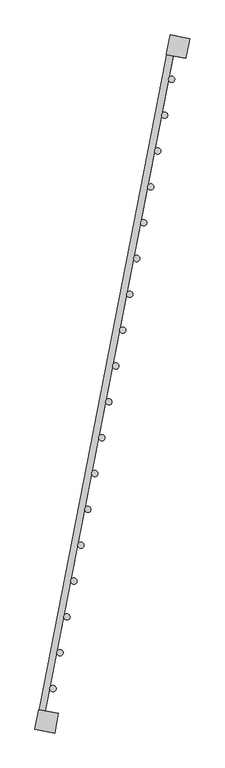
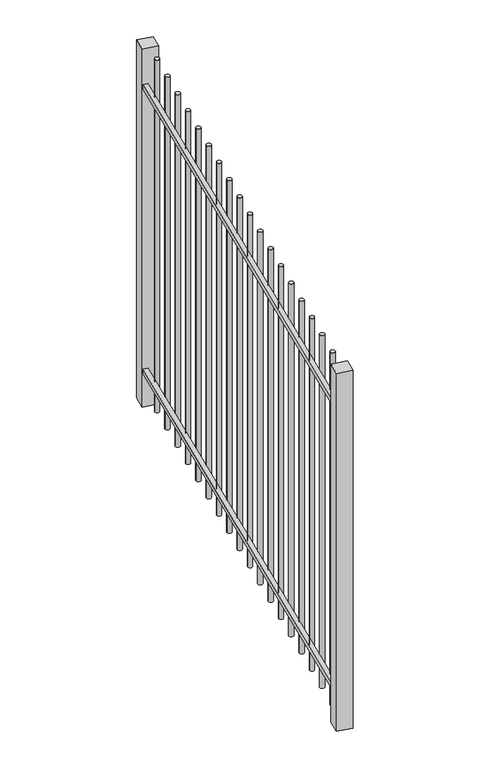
"""IFC4 building model written with IfcOpenShell, lengths in millimetres: railing geometry, GRADIL V 200 01."""

from ifc_helpers import new_model, si_unit, point, frame, frame_2d, origin, origin_with_axes, place, context, project, spatial, polyline, circle_curve, trimmed, segment, composite_curve, outline, extrude, source, transform, mapped, element, save


def railing_6e855a38(model_context):
    return source(origin(), model_context, "Body", "SweptSolid", [
        extrude(outline(polyline([(46061.0197058, 21176.6040778), (46085.5588736, 21171.8260823), (45554.245773, 18443.0706171), (45529.7066051, 18447.8486126), (46061.0197058, 21176.6040778)])), frame((0.0, 0.0, 1787.5), z_axis=(0.0, 0.0, 1.0), x_axis=(1.0, 0.0, 0.0)), (0.0, 0.0, 1.0), 25.0),
        extrude(outline(polyline([(46061.0197058, 21176.6040778), (46085.5588736, 21171.8260823), (45554.245773, 18443.0706171), (45529.7066051, 18447.8486126), (46061.0197058, 21176.6040778)])), frame((0.0, 0.0, 187.5), z_axis=(0.0, 0.0, 1.0), x_axis=(1.0, 0.0, 0.0)), (0.0, 0.0, 1.0), 25.0),
        extrude(outline(composite_curve([segment(trimmed(circle_curve(frame_2d((45594.4792043, 18584.300328)), 12.5), [point((45606.7487882, 18581.9113303))], [point((45582.2096204, 18586.6893258))], False, "CARTESIAN"), True, "CONTINUOUS"), segment(trimmed(circle_curve(frame_2d((45594.4792043, 18584.300328)), 12.5), [point((45582.2096204, 18586.6893258))], [point((45606.7487882, 18581.9113303))], False, "CARTESIAN"), True, "CONTINUOUS")], self_intersect=False)), frame((0.0, 0.0, 30.0), z_axis=(0.0, 0.0, 1.0), x_axis=(1.0, 0.0, 0.0)), (0.0, 0.0, 1.0), 1982.5),
        extrude(outline(composite_curve([segment(trimmed(circle_curve(frame_2d((45622.4430517, 18727.9190367)), 12.5), [point((45634.7126356, 18725.530039))], [point((45610.1734678, 18730.3080345))], False, "CARTESIAN"), True, "CONTINUOUS"), segment(trimmed(circle_curve(frame_2d((45622.4430517, 18727.9190367)), 12.5), [point((45610.1734678, 18730.3080345))], [point((45634.7126356, 18725.530039))], False, "CARTESIAN"), True, "CONTINUOUS")], self_intersect=False)), frame((0.0, 0.0, 30.0), z_axis=(0.0, 0.0, 1.0), x_axis=(1.0, 0.0, 0.0)), (0.0, 0.0, 1.0), 1982.5),
        extrude(outline(composite_curve([segment(trimmed(circle_curve(frame_2d((45650.4068991, 18871.5377454)), 12.5), [point((45662.6764831, 18869.1487477))], [point((45638.1373152, 18873.9267432))], False, "CARTESIAN"), True, "CONTINUOUS"), segment(trimmed(circle_curve(frame_2d((45650.4068991, 18871.5377454)), 12.5), [point((45638.1373152, 18873.9267432))], [point((45662.6764831, 18869.1487477))], False, "CARTESIAN"), True, "CONTINUOUS")], self_intersect=False)), frame((0.0, 0.0, 30.0), z_axis=(0.0, 0.0, 1.0), x_axis=(1.0, 0.0, 0.0)), (0.0, 0.0, 1.0), 1982.5),
        extrude(outline(composite_curve([segment(trimmed(circle_curve(frame_2d((45678.3707465, 19015.1564541)), 12.5), [point((45690.6403305, 19012.7674564))], [point((45666.1011626, 19017.5454519))], False, "CARTESIAN"), True, "CONTINUOUS"), segment(trimmed(circle_curve(frame_2d((45678.3707465, 19015.1564541)), 12.5), [point((45666.1011626, 19017.5454519))], [point((45690.6403305, 19012.7674564))], False, "CARTESIAN"), True, "CONTINUOUS")], self_intersect=False)), frame((0.0, 0.0, 30.0), z_axis=(0.0, 0.0, 1.0), x_axis=(1.0, 0.0, 0.0)), (0.0, 0.0, 1.0), 1982.5),
        extrude(outline(composite_curve([segment(trimmed(circle_curve(frame_2d((45706.3345939, 19158.7751628)), 12.5), [point((45718.6041779, 19156.3861651))], [point((45694.06501, 19161.1641606))], False, "CARTESIAN"), True, "CONTINUOUS"), segment(trimmed(circle_curve(frame_2d((45706.3345939, 19158.7751628)), 12.5), [point((45694.06501, 19161.1641606))], [point((45718.6041779, 19156.3861651))], False, "CARTESIAN"), True, "CONTINUOUS")], self_intersect=False)), frame((0.0, 0.0, 30.0), z_axis=(0.0, 0.0, 1.0), x_axis=(1.0, 0.0, 0.0)), (0.0, 0.0, 1.0), 1982.5),
        extrude(outline(composite_curve([segment(trimmed(circle_curve(frame_2d((45734.2984413, 19302.3938715)), 12.5), [point((45746.5680253, 19300.0048738))], [point((45722.0288574, 19304.7828693))], False, "CARTESIAN"), True, "CONTINUOUS"), segment(trimmed(circle_curve(frame_2d((45734.2984413, 19302.3938715)), 12.5), [point((45722.0288574, 19304.7828693))], [point((45746.5680253, 19300.0048738))], False, "CARTESIAN"), True, "CONTINUOUS")], self_intersect=False)), frame((0.0, 0.0, 30.0), z_axis=(0.0, 0.0, 1.0), x_axis=(1.0, 0.0, 0.0)), (0.0, 0.0, 1.0), 1982.5),
        extrude(outline(composite_curve([segment(trimmed(circle_curve(frame_2d((45762.2622887, 19446.0125802)), 12.5), [point((45774.5318727, 19443.6235825))], [point((45749.9927048, 19448.401578))], False, "CARTESIAN"), True, "CONTINUOUS"), segment(trimmed(circle_curve(frame_2d((45762.2622887, 19446.0125802)), 12.5), [point((45749.9927048, 19448.401578))], [point((45774.5318727, 19443.6235825))], False, "CARTESIAN"), True, "CONTINUOUS")], self_intersect=False)), frame((0.0, 0.0, 30.0), z_axis=(0.0, 0.0, 1.0), x_axis=(1.0, 0.0, 0.0)), (0.0, 0.0, 1.0), 1982.5),
        extrude(outline(composite_curve([segment(trimmed(circle_curve(frame_2d((45790.2261361, 19589.6312889)), 12.5), [point((45802.4957201, 19587.2422912))], [point((45777.9565522, 19592.0202867))], False, "CARTESIAN"), True, "CONTINUOUS"), segment(trimmed(circle_curve(frame_2d((45790.2261361, 19589.6312889)), 12.5), [point((45777.9565522, 19592.0202867))], [point((45802.4957201, 19587.2422912))], False, "CARTESIAN"), True, "CONTINUOUS")], self_intersect=False)), frame((0.0, 0.0, 30.0), z_axis=(0.0, 0.0, 1.0), x_axis=(1.0, 0.0, 0.0)), (0.0, 0.0, 1.0), 1982.5),
        extrude(outline(composite_curve([segment(trimmed(circle_curve(frame_2d((45818.1899835, 19733.2499976)), 12.5), [point((45830.4595675, 19730.8609999))], [point((45805.9203996, 19735.6389954))], False, "CARTESIAN"), True, "CONTINUOUS"), segment(trimmed(circle_curve(frame_2d((45818.1899835, 19733.2499976)), 12.5), [point((45805.9203996, 19735.6389954))], [point((45830.4595675, 19730.8609999))], False, "CARTESIAN"), True, "CONTINUOUS")], self_intersect=False)), frame((0.0, 0.0, 30.0), z_axis=(0.0, 0.0, 1.0), x_axis=(1.0, 0.0, 0.0)), (0.0, 0.0, 1.0), 1982.5),
        extrude(outline(composite_curve([segment(trimmed(circle_curve(frame_2d((45846.1538309, 19876.8687063)), 12.5), [point((45858.4234149, 19874.4797086))], [point((45833.884247, 19879.2577041))], False, "CARTESIAN"), True, "CONTINUOUS"), segment(trimmed(circle_curve(frame_2d((45846.1538309, 19876.8687063)), 12.5), [point((45833.884247, 19879.2577041))], [point((45858.4234149, 19874.4797086))], False, "CARTESIAN"), True, "CONTINUOUS")], self_intersect=False)), frame((0.0, 0.0, 30.0), z_axis=(0.0, 0.0, 1.0), x_axis=(1.0, 0.0, 0.0)), (0.0, 0.0, 1.0), 1982.5),
        extrude(outline(composite_curve([segment(trimmed(circle_curve(frame_2d((45874.1176783, 20020.487415)), 12.5), [point((45886.3872623, 20018.0984173))], [point((45861.8480944, 20022.8764128))], False, "CARTESIAN"), True, "CONTINUOUS"), segment(trimmed(circle_curve(frame_2d((45874.1176783, 20020.487415)), 12.5), [point((45861.8480944, 20022.8764128))], [point((45886.3872623, 20018.0984173))], False, "CARTESIAN"), True, "CONTINUOUS")], self_intersect=False)), frame((0.0, 0.0, 30.0), z_axis=(0.0, 0.0, 1.0), x_axis=(1.0, 0.0, 0.0)), (0.0, 0.0, 1.0), 1982.5),
        extrude(outline(composite_curve([segment(trimmed(circle_curve(frame_2d((45902.0815257, 20164.1061237)), 12.5), [point((45914.3511097, 20161.717126))], [point((45889.8119418, 20166.4951215))], False, "CARTESIAN"), True, "CONTINUOUS"), segment(trimmed(circle_curve(frame_2d((45902.0815257, 20164.1061237)), 12.5), [point((45889.8119418, 20166.4951215))], [point((45914.3511097, 20161.717126))], False, "CARTESIAN"), True, "CONTINUOUS")], self_intersect=False)), frame((0.0, 0.0, 30.0), z_axis=(0.0, 0.0, 1.0), x_axis=(1.0, 0.0, 0.0)), (0.0, 0.0, 1.0), 1982.5),
        extrude(outline(composite_curve([segment(trimmed(circle_curve(frame_2d((45930.0453732, 20307.7248324)), 12.5), [point((45942.3149571, 20305.3358346))], [point((45917.7757892, 20310.1138302))], False, "CARTESIAN"), True, "CONTINUOUS"), segment(trimmed(circle_curve(frame_2d((45930.0453732, 20307.7248324)), 12.5), [point((45917.7757892, 20310.1138302))], [point((45942.3149571, 20305.3358346))], False, "CARTESIAN"), True, "CONTINUOUS")], self_intersect=False)), frame((0.0, 0.0, 30.0), z_axis=(0.0, 0.0, 1.0), x_axis=(1.0, 0.0, 0.0)), (0.0, 0.0, 1.0), 1982.5),
        extrude(outline(composite_curve([segment(trimmed(circle_curve(frame_2d((45958.0092206, 20451.3435411)), 12.5), [point((45970.2788045, 20448.9545433))], [point((45945.7396366, 20453.7325389))], False, "CARTESIAN"), True, "CONTINUOUS"), segment(trimmed(circle_curve(frame_2d((45958.0092206, 20451.3435411)), 12.5), [point((45945.7396366, 20453.7325389))], [point((45970.2788045, 20448.9545433))], False, "CARTESIAN"), True, "CONTINUOUS")], self_intersect=False)), frame((0.0, 0.0, 30.0), z_axis=(0.0, 0.0, 1.0), x_axis=(1.0, 0.0, 0.0)), (0.0, 0.0, 1.0), 1982.5),
        extrude(outline(composite_curve([segment(trimmed(circle_curve(frame_2d((45985.973068, 20594.9622498)), 12.5), [point((45998.2426519, 20592.573252))], [point((45973.703484, 20597.3512476))], False, "CARTESIAN"), True, "CONTINUOUS"), segment(trimmed(circle_curve(frame_2d((45985.973068, 20594.9622498)), 12.5), [point((45973.703484, 20597.3512476))], [point((45998.2426519, 20592.573252))], False, "CARTESIAN"), True, "CONTINUOUS")], self_intersect=False)), frame((0.0, 0.0, 30.0), z_axis=(0.0, 0.0, 1.0), x_axis=(1.0, 0.0, 0.0)), (0.0, 0.0, 1.0), 1982.5),
        extrude(outline(composite_curve([segment(trimmed(circle_curve(frame_2d((46013.9369154, 20738.5809585)), 12.5), [point((46026.2064993, 20736.1919607))], [point((46001.6673314, 20740.9699562))], False, "CARTESIAN"), True, "CONTINUOUS"), segment(trimmed(circle_curve(frame_2d((46013.9369154, 20738.5809585)), 12.5), [point((46001.6673314, 20740.9699562))], [point((46026.2064993, 20736.1919607))], False, "CARTESIAN"), True, "CONTINUOUS")], self_intersect=False)), frame((0.0, 0.0, 30.0), z_axis=(0.0, 0.0, 1.0), x_axis=(1.0, 0.0, 0.0)), (0.0, 0.0, 1.0), 1982.5),
        extrude(outline(composite_curve([segment(trimmed(circle_curve(frame_2d((46041.9007628, 20882.1996672)), 12.5), [point((46054.1703467, 20879.8106694))], [point((46029.6311788, 20884.5886649))], False, "CARTESIAN"), True, "CONTINUOUS"), segment(trimmed(circle_curve(frame_2d((46041.9007628, 20882.1996672)), 12.5), [point((46029.6311788, 20884.5886649))], [point((46054.1703467, 20879.8106694))], False, "CARTESIAN"), True, "CONTINUOUS")], self_intersect=False)), frame((0.0, 0.0, 30.0), z_axis=(0.0, 0.0, 1.0), x_axis=(1.0, 0.0, 0.0)), (0.0, 0.0, 1.0), 1982.5),
        extrude(outline(composite_curve([segment(trimmed(circle_curve(frame_2d((46069.8646102, 21025.8183759)), 12.5), [point((46082.1341941, 21023.4293781))], [point((46057.5950262, 21028.2073736))], False, "CARTESIAN"), True, "CONTINUOUS"), segment(trimmed(circle_curve(frame_2d((46069.8646102, 21025.8183759)), 12.5), [point((46057.5950262, 21028.2073736))], [point((46082.1341941, 21023.4293781))], False, "CARTESIAN"), True, "CONTINUOUS")], self_intersect=False)), frame((0.0, 0.0, 30.0), z_axis=(0.0, 0.0, 1.0), x_axis=(1.0, 0.0, 0.0)), (0.0, 0.0, 1.0), 1982.5),
        extrude(outline(polyline([(45537.2864789, 18499.8586646), (45615.8118161, 18484.569079), (45600.5222304, 18406.0437419), (45521.9968933, 18421.3333275), (45537.2864789, 18499.8586646)])), origin_with_axes(), (0.0, 0.0, 1.0), 2012.5),
        extrude(outline(polyline([(46063.8215841, 21204.074962), (46142.3469212, 21188.7853764), (46127.0573356, 21110.2600393), (46048.5319984, 21125.5496249), (46063.8215841, 21204.074962)])), origin_with_axes(), (0.0, 0.0, 1.0), 2012.5),
    ])


if __name__ == "__main__":
    model = new_model("IFC4")
    model_context = context("Model", 3, world=origin())
    ifc_project = project(units=[si_unit("LENGTHUNIT", "METRE", prefix="MILLI")], contexts=[model_context])
    site = spatial("IfcSite", under=ifc_project)
    building = spatial("IfcBuilding", under=site)
    placement = place(None, origin())
    railing_shape = railing_6e855a38(model_context)
    element("IfcRailing", 1, ObjectType="GRADIL V 200 01", at=placement, inside=building, context=model_context, shape_type="MappedRepresentation", body=[
        mapped(railing_shape, transform((0.0, 0.0, 0.0), x_axis=(1.0, 0.0, 0.0), y_axis=(0.0, 1.0, 0.0), z_axis=(0.0, 0.0, 1.0))),
    ])
    save(model, "model.ifc")
